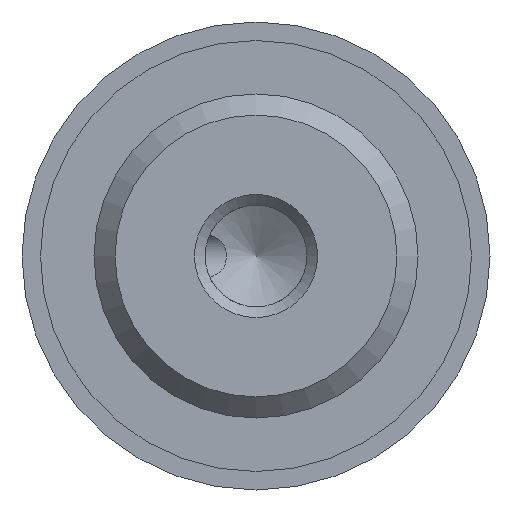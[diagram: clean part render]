
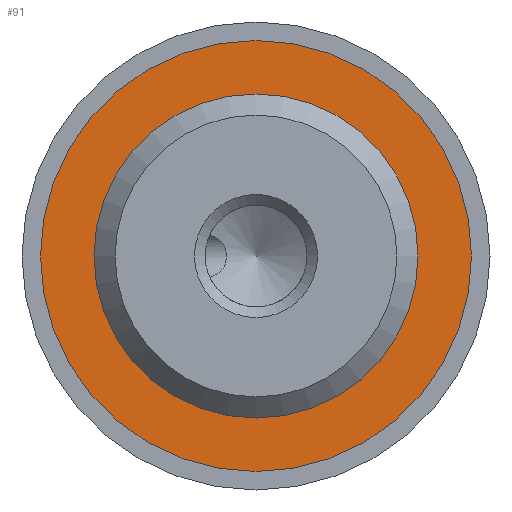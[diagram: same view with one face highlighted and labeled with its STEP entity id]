
A CAD part, front view. The second image highlights one B-rep face of the part: STEP entity #91.
In plain terms, the highlighted planar face has unit normal (0, -1, 0).
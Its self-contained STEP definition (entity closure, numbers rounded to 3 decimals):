
#91 = ADVANCED_FACE( '', ( #145, #146 ), #147, .F. );
#145 = FACE_BOUND( '', #211, .T. );
#146 = FACE_OUTER_BOUND( '', #212, .T. );
#147 = PLANE( '', #213 );
#211 = EDGE_LOOP( '', ( #331 ) );
#212 = EDGE_LOOP( '', ( #332 ) );
#213 = AXIS2_PLACEMENT_3D( '', #333, #334, #335 );
#331 = ORIENTED_EDGE( '', *, *, #437, .F. );
#332 = ORIENTED_EDGE( '', *, *, #438, .T. );
#333 = CARTESIAN_POINT( '', ( 8.75, 7., 0. ) );
#334 = DIRECTION( '', ( 0., 1., 0. ) );
#335 = DIRECTION( '', ( 0., 0., 1. ) );
#437 = EDGE_CURVE( '', #509, #509, #510, .T. );
#438 = EDGE_CURVE( '', #511, #511, #512, .T. );
#509 = VERTEX_POINT( '', #702 );
#510 = CIRCLE( '', #703, 6.579 );
#511 = VERTEX_POINT( '', #704 );
#512 = CIRCLE( '', #705, 8.75 );
#702 = CARTESIAN_POINT( '', ( 0., 7., -6.579 ) );
#703 = AXIS2_PLACEMENT_3D( '', #783, #784, #785 );
#704 = CARTESIAN_POINT( '', ( 0., 7., -8.75 ) );
#705 = AXIS2_PLACEMENT_3D( '', #786, #787, #788 );
#783 = CARTESIAN_POINT( '', ( 0., 7., 0. ) );
#784 = DIRECTION( '', ( 0., -1., 0. ) );
#785 = DIRECTION( '', ( 0., 0., -1. ) );
#786 = CARTESIAN_POINT( '', ( 0., 7., 0. ) );
#787 = DIRECTION( '', ( 0., -1., 0. ) );
#788 = DIRECTION( '', ( 0., 0., -1. ) );
